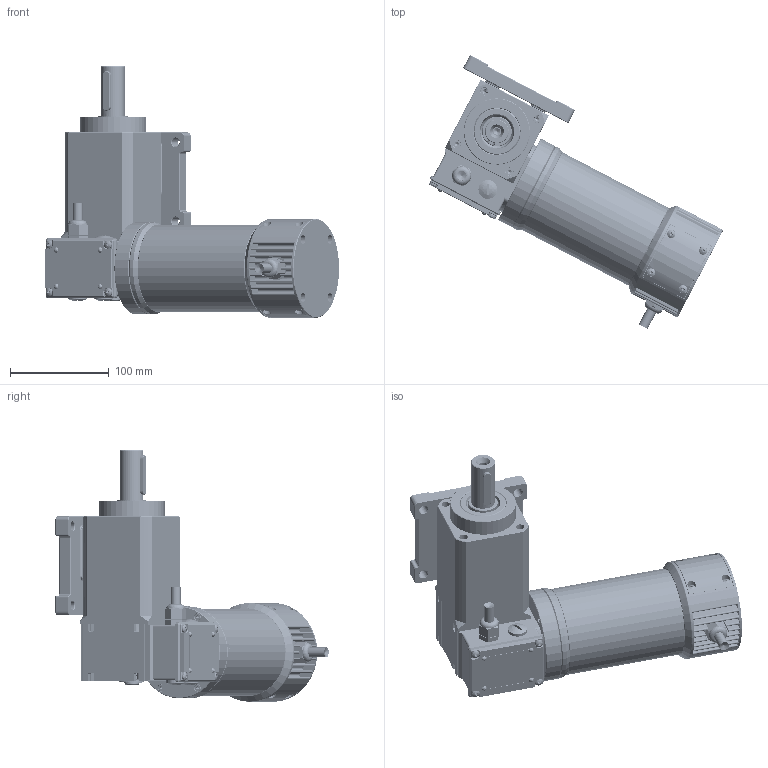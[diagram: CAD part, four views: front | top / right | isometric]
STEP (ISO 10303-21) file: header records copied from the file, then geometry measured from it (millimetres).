
FILE_DESCRIPTION((''),'2;1');
FILE_NAME('C:\Documents and Settings\marco\Desktop\DATI\DATI MARCO\Disegni inventor\STEP\PCCE\PCCE_MP4N-B3.stp','2003-08-27T16:16:15',('Administrator'),(''),'Autodesk Inventor 7','Autodesk Inventor 7','');
FILE_SCHEMA(('AUTOMOTIVE_DESIGN { 1 0 10303 214 1 1 1 1 }'));
Length unit declared in the file: millimetre
Products named in the file (1): PCCE_MP4N-B3
Bounding box: 297.49 x 276.53 x 254.5 mm (x, y, z)
Volume: 1355205.9 mm3; surface area: 465520.5 mm2
Topology: 66 solids, 66 shells, 6114 faces, 16714 edges, 10743 vertices
Faces by surface type: plane 2991, cylinder 1529, cone 716, bspline 672, torus 178, sphere 28
Entity records: 212343 total; most frequent: CARTESIAN_POINT 58550, ORIENTED_EDGE 33120, DIRECTION 32067, EDGE_CURVE 16560, AXIS2_PLACEMENT_3D 11384, VERTEX_POINT 10743, VECTOR 9299, LINE 9299
